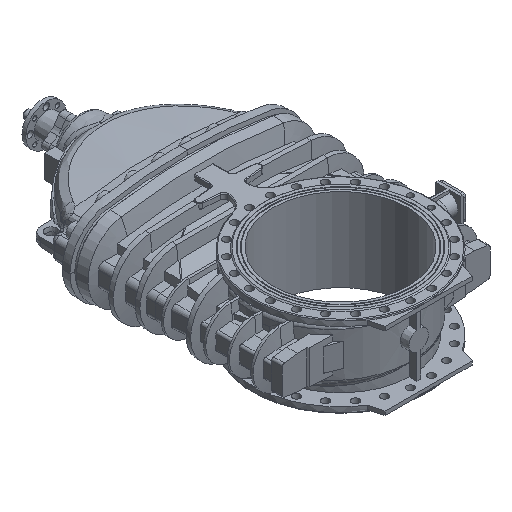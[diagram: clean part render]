
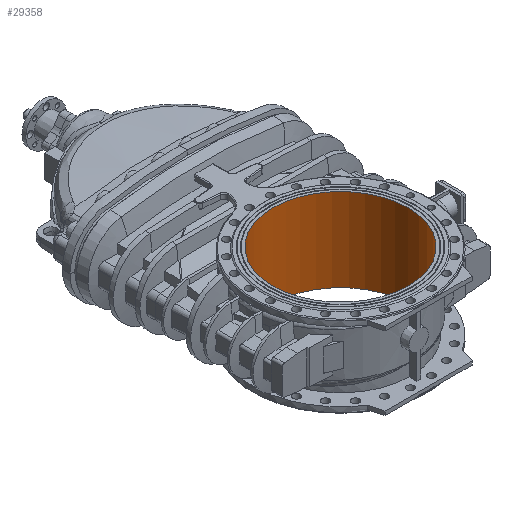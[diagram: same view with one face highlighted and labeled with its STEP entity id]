
A CAD part, isometric view. The second image highlights one B-rep face of the part: STEP entity #29358.
In plain terms, the highlighted cylindrical face has radius 350 mm (diameter 700 mm), a full revolution.
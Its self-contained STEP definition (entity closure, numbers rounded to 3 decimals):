
#2086 = EDGE_CURVE ( 'NONE', #16085, #16085, #11205, .T. ) ;
#2304 = EDGE_LOOP ( 'NONE', ( #3201 ) ) ;
#2369 = EDGE_LOOP ( 'NONE', ( #3198 ) ) ;
#3198 = ORIENTED_EDGE ( 'NONE', *, *, #23193, .T. ) ;
#3201 = ORIENTED_EDGE ( 'NONE', *, *, #2086, .T. ) ;
#6202 = CARTESIAN_POINT ( 'NONE',  ( 0., -50., 215. ) ) ;
#6203 = DIRECTION ( 'NONE',  ( 0., 0., 1. ) ) ;
#6204 = DIRECTION ( 'NONE',  ( -1., 0., 0. ) ) ;
#11205 = CIRCLE ( 'NONE', #24220, 350. ) ;
#16085 = VERTEX_POINT ( 'NONE', #17726 ) ;
#16119 = VERTEX_POINT ( 'NONE', #17760 ) ;
#17726 = CARTESIAN_POINT ( 'NONE',  ( -350., -50., -215. ) ) ;
#17760 = CARTESIAN_POINT ( 'NONE',  ( -350., -50., 215. ) ) ;
#23193 = EDGE_CURVE ( 'NONE', #16119, #16119, #33483, .T. ) ;
#24220 = AXIS2_PLACEMENT_3D ( 'NONE', #31273, #31274, #31275 ) ;
#24431 = AXIS2_PLACEMENT_3D ( 'NONE', #6202, #6203, #6204 ) ;
#26946 = AXIS2_PLACEMENT_3D ( 'NONE', #37987, #37988, #37986 ) ;
#28990 = FACE_OUTER_BOUND ( 'NONE', #2369, .T. ) ;
#28999 = FACE_OUTER_BOUND ( 'NONE', #2304, .T. ) ;
#29002 = CYLINDRICAL_SURFACE ( 'NONE', #26946, 350. ) ;
#29358 = ADVANCED_FACE ( 'NONE', ( #28990, #28999 ), #29002, .F. ) ;
#31273 = CARTESIAN_POINT ( 'NONE',  ( 0., -50., -215. ) ) ;
#31274 = DIRECTION ( 'NONE',  ( 0., 0., -1. ) ) ;
#31275 = DIRECTION ( 'NONE',  ( -1., 0., 0. ) ) ;
#33483 = CIRCLE ( 'NONE', #24431, 350. ) ;
#37986 = DIRECTION ( 'NONE',  ( -1., 0., 0. ) ) ;
#37987 = CARTESIAN_POINT ( 'NONE',  ( 0., -50., 1204.949 ) ) ;
#37988 = DIRECTION ( 'NONE',  ( 0., 0., -1. ) ) ;
